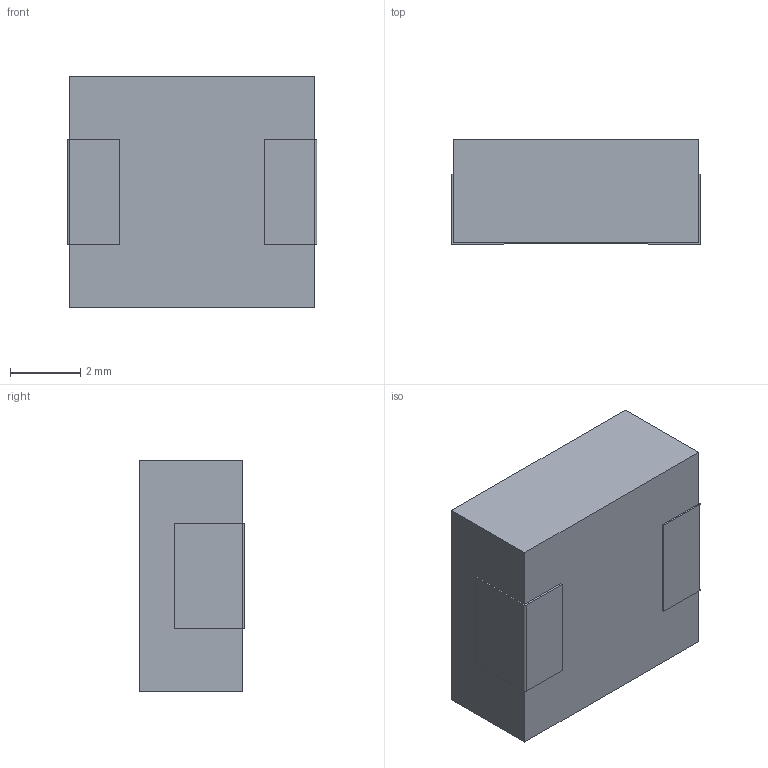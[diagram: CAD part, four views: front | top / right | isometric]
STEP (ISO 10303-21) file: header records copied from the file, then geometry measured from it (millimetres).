
FILE_DESCRIPTION (( 'STEP AP214' ), '1' );
FILE_NAME ('ECS-MPIL0630-100MC.STEP', '2020-06-15T07:53:19', ( '' ), ( '' ), 'SwSTEP 2.0', 'SolidWorks 2017', '' );
FILE_SCHEMA (( 'AUTOMOTIVE_DESIGN' ));
Length unit declared in the file: millimetre
Products named in the file (1): ECS-MPIL0630-100MC
Bounding box: 7.1 x 3 x 6.6 mm (x, y, z)
Volume: 137.3 mm3; surface area: 215.2 mm2
Topology: 3 solids, 3 shells, 24 faces, 54 edges, 36 vertices
Faces by surface type: plane 22, cylinder 2
Entity records: 714 total; most frequent: CARTESIAN_POINT 115, DIRECTION 108, ORIENTED_EDGE 108, EDGE_CURVE 54, VECTOR 50, LINE 50, VERTEX_POINT 36, AXIS2_PLACEMENT_3D 29
